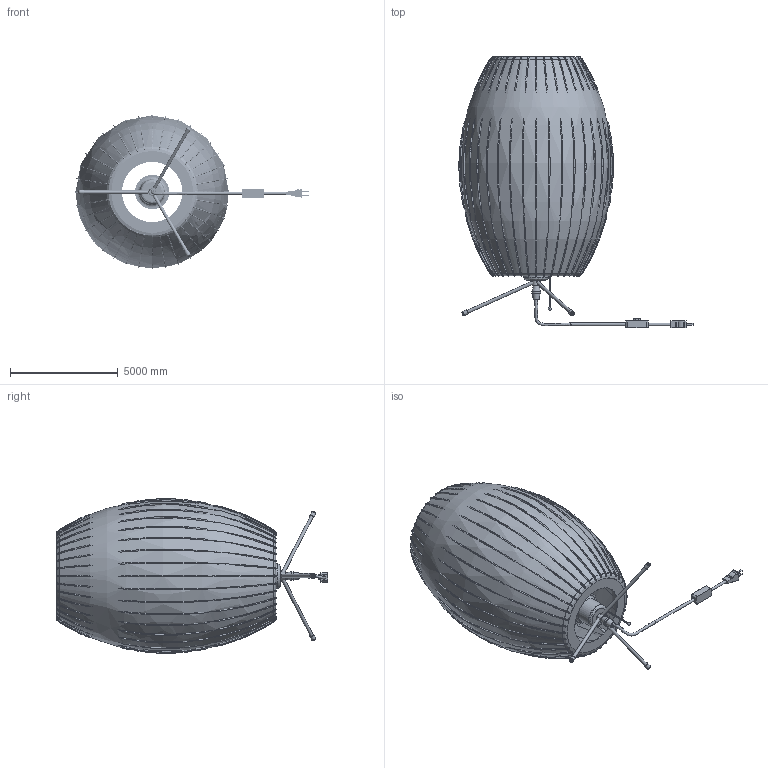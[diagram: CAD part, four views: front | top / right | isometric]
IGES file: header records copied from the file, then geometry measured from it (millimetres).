
Global section: file name: Nelson Tripod Table Lamp-Model-A; native system: AutoCAD 2022 - 简体中文 (Simplified Chinese),62HAuto; preprocessor: desk Translation Framework DWG producer (atf_dwg_producer); organization: unknown; date: 20250426.100526; units: inch
Bounding box: 10856.08 x 12568.06 x 7162.8 mm (x, y, z)
Volume: 9522292022.3 mm3; surface area: 547922377.8 mm2
Topology: 100 solids, 100 shells, 382 faces, 795 edges, 540 vertices
Faces by surface type: bspline 382
